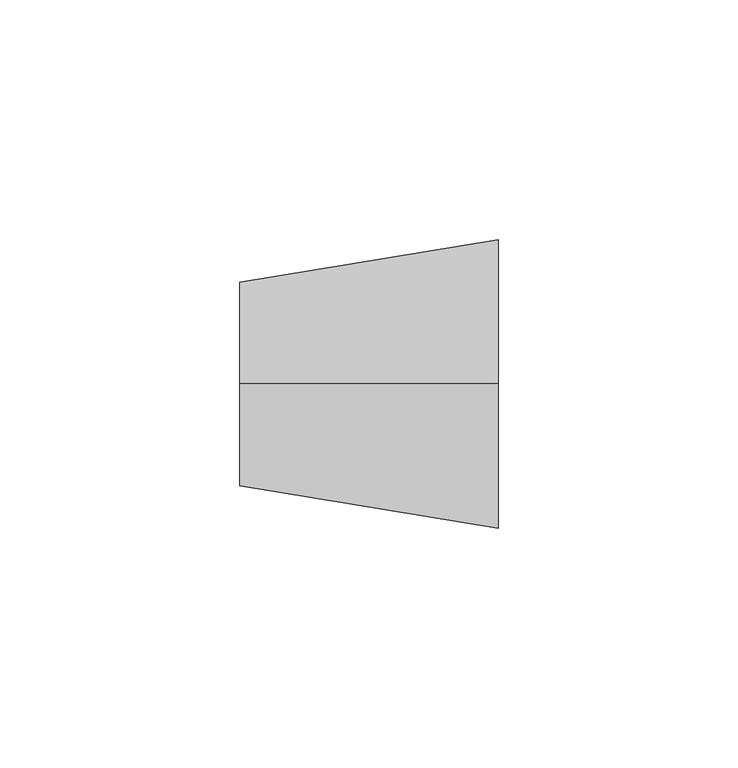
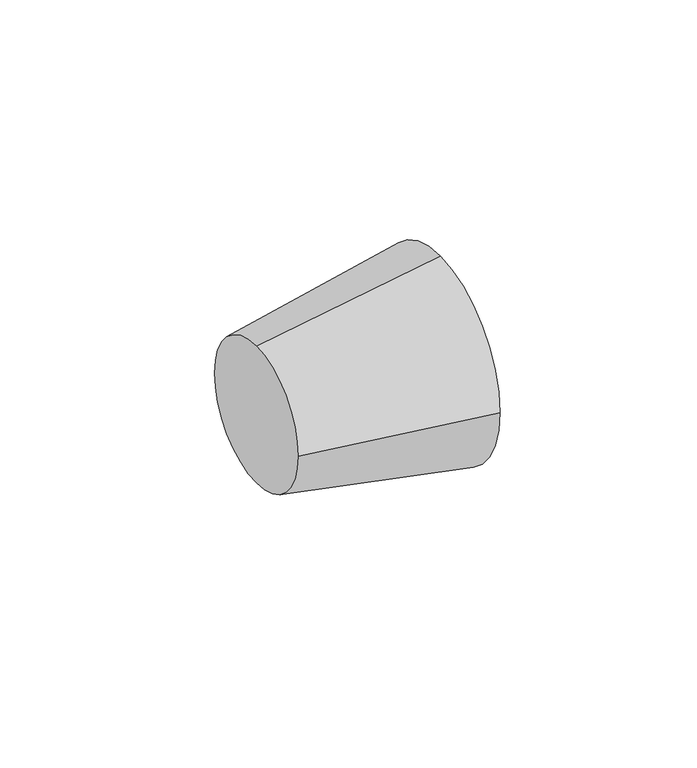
"""IFC4 building model written with IfcOpenShell, lengths in millimetres: pipe fitting geometry, Réduction Acier Inox : Longueur = x3 EN ISO 1127."""

from ifc_helpers import new_model, si_unit, frame, origin, place, context, project, spatial, polyline, circle_curve, source, transform, mapped, element, save
from ifc_brep_helpers import plane_surface, revolved_surface, advanced_brep


def pipe_fitting_a8782d3a(model_context):
    return source(origin(), model_context, "Body", "AdvancedBrep", [
        advanced_brep(
        [(23.5, 0.0, 30.15), (23.5, -30.15, 0.0), (23.5, 0.0, -30.15), (23.5, 30.15, 0.0), (-30.5, 0.0, 21.2), (-30.5, 21.2, 0.0), (-30.5, 0.0, -21.2), (-30.5, -21.2, 0.0)],
        [
            (0, 1, circle_curve(frame((23.5, 0.0, 0.0), z_axis=(1.0, 0.0, 0.0), x_axis=(0.0, 0.0, 1.0)), 30.15)),
            (1, 2, circle_curve(frame((23.5, 0.0, 0.0), z_axis=(1.0, 0.0, 0.0), x_axis=(0.0, -1.0, 0.0)), 30.15)),
            (2, 3, circle_curve(frame((23.5, 0.0, 0.0), z_axis=(1.0, 0.0, 0.0), x_axis=(0.0, 0.0, -1.0)), 30.15)),
            (3, 0, circle_curve(frame((23.5, 0.0, 0.0), z_axis=(1.0, 0.0, 0.0), x_axis=(0.0, 1.0, 0.0)), 30.15)),
            (4, 5, circle_curve(frame((-30.5, 0.0, 0.0), z_axis=(-1.0, 0.0, 0.0), x_axis=(0.0, 1.0, 0.0)), 21.2)),
            (5, 6, circle_curve(frame((-30.5, 0.0, 0.0), z_axis=(-1.0, 0.0, 0.0), x_axis=(0.0, 0.0, -1.0)), 21.2)),
            (6, 7, circle_curve(frame((-30.5, 0.0, 0.0), z_axis=(-1.0, 0.0, 0.0), x_axis=(0.0, -1.0, 0.0)), 21.2)),
            (7, 4, circle_curve(frame((-30.5, 0.0, 0.0), z_axis=(-1.0, 0.0, 0.0), x_axis=(0.0, 0.0, 1.0)), 21.2)),
            (7, 1),
            (0, 4),
            (6, 2),
            (5, 3),
        ],
        [
            plane_surface(frame((23.5, 0.0, 0.0), z_axis=(1.0, 0.0, 0.0), x_axis=(0.0, -1.0, 0.0))),
            plane_surface(frame((-30.5, 0.0, 0.0), z_axis=(-1.0, 0.0, 0.0), x_axis=(0.0, -1.0, 0.0))),
            revolved_surface(polyline([(-30.5, -21.199999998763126, 0.0), (23.5, -30.15, 0.0)]), (-158.4106145, 0.0, 0.0), (1.0, 0.0, 0.0)),
            revolved_surface(polyline([(-30.5, 0.0, -21.199999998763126), (23.5, 0.0, -30.15)]), (-158.4106145, 0.0, 0.0), (1.0, 0.0, 0.0)),
            revolved_surface(polyline([(-30.5, 21.199999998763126, 0.0), (23.5, 30.15, 0.0)]), (-158.4106145, 0.0, 0.0), (1.0, 0.0, 0.0)),
            revolved_surface(polyline([(-30.5, 0.0, 21.199999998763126), (23.5, 0.0, 30.15)]), (-158.4106145, 0.0, 0.0), (1.0, 0.0, 0.0)),
        ],
        [
            (0, [[1, 2, 3, 4]]),
            (1, [[5, 6, 7, 8]]),
            (2, [[-8, 9, -1, 10]]),
            (3, [[-7, 11, -2, -9]]),
            (4, [[-6, 12, -3, -11]]),
            (5, [[-5, -10, -4, -12]]),
        ],
    ),
    ])


if __name__ == "__main__":
    model = new_model("IFC4")
    model_context = context("Model", 3, world=origin())
    ifc_project = project(units=[si_unit("LENGTHUNIT", "METRE", prefix="MILLI")], contexts=[model_context])
    site = spatial("IfcSite", under=ifc_project)
    building = spatial("IfcBuilding", under=site)
    placement = place(None, origin())
    pipe_fitting_shape = pipe_fitting_a8782d3a(model_context)
    element("IfcPipeFitting", 1, ObjectType="Réduction Acier Inox : Longueur = x3 EN ISO 1127", at=placement, inside=building, context=model_context, shape_type="MappedRepresentation", body=[
        mapped(pipe_fitting_shape, transform((0.0, 0.0, 0.0), x_axis=(1.0, 0.0, 0.0), y_axis=(0.0, 1.0, 0.0), z_axis=(0.0, 0.0, 1.0))),
    ])
    save(model, "model.ifc")
